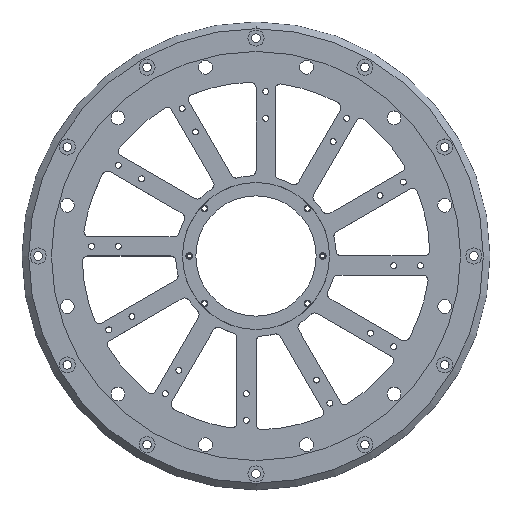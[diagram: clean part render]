
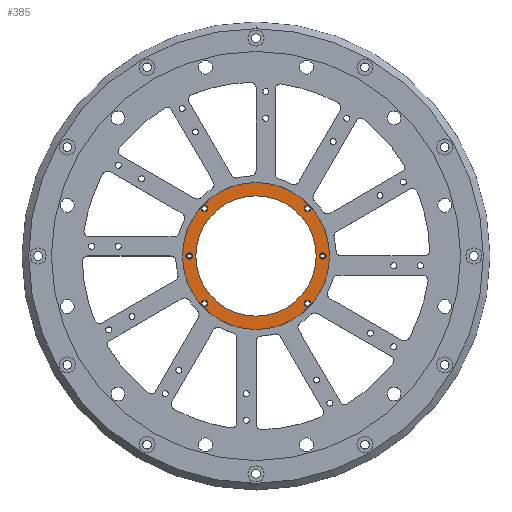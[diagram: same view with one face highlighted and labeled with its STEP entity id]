
A CAD part, top view. The second image highlights one B-rep face of the part: STEP entity #385.
In plain terms, the highlighted planar face has unit normal (0, 0, 1).
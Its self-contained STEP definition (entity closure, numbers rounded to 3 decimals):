
#281=FACE_BOUND('',#1394,.F.);
#282=FACE_BOUND('',#1395,.F.);
#283=FACE_BOUND('',#1396,.F.);
#284=FACE_BOUND('',#1397,.F.);
#285=FACE_BOUND('',#1398,.F.);
#286=FACE_BOUND('',#1399,.F.);
#287=FACE_BOUND('',#1400,.F.);
#321=PLANE('',#8231);
#385=ADVANCED_FACE('',(#281,#282,#283,#284,#285,#286,#287,#825),#321,.T.);
#825=FACE_OUTER_BOUND('',#1401,.F.);
#1394=EDGE_LOOP('',(#2294,#2295));
#1395=EDGE_LOOP('',(#2296,#2297));
#1396=EDGE_LOOP('',(#2298,#2299));
#1397=EDGE_LOOP('',(#2300,#2301));
#1398=EDGE_LOOP('',(#2302,#2303));
#1399=EDGE_LOOP('',(#2304,#2305));
#1400=EDGE_LOOP('',(#2306,#2307));
#1401=EDGE_LOOP('',(#2308,#2309));
#2294=ORIENTED_EDGE('',*,*,#5674,.F.);
#2295=ORIENTED_EDGE('',*,*,#5675,.F.);
#2296=ORIENTED_EDGE('',*,*,#5537,.F.);
#2297=ORIENTED_EDGE('',*,*,#5536,.F.);
#2298=ORIENTED_EDGE('',*,*,#5540,.F.);
#2299=ORIENTED_EDGE('',*,*,#5541,.F.);
#2300=ORIENTED_EDGE('',*,*,#5535,.F.);
#2301=ORIENTED_EDGE('',*,*,#5534,.F.);
#2302=ORIENTED_EDGE('',*,*,#5542,.F.);
#2303=ORIENTED_EDGE('',*,*,#5543,.F.);
#2304=ORIENTED_EDGE('',*,*,#5533,.F.);
#2305=ORIENTED_EDGE('',*,*,#5532,.F.);
#2306=ORIENTED_EDGE('',*,*,#5672,.F.);
#2307=ORIENTED_EDGE('',*,*,#5673,.F.);
#2308=ORIENTED_EDGE('',*,*,#5679,.T.);
#2309=ORIENTED_EDGE('',*,*,#5676,.T.);
#5532=EDGE_CURVE('',#7305,#7304,#6590,.T.);
#5533=EDGE_CURVE('',#7304,#7305,#6591,.T.);
#5534=EDGE_CURVE('',#7303,#7302,#6592,.T.);
#5535=EDGE_CURVE('',#7302,#7303,#6593,.T.);
#5536=EDGE_CURVE('',#7301,#7300,#6594,.T.);
#5537=EDGE_CURVE('',#7300,#7301,#6595,.T.);
#5540=EDGE_CURVE('',#7297,#7296,#6598,.T.);
#5541=EDGE_CURVE('',#7296,#7297,#6599,.T.);
#5542=EDGE_CURVE('',#7295,#7294,#6600,.T.);
#5543=EDGE_CURVE('',#7294,#7295,#6601,.T.);
#5672=EDGE_CURVE('',#7169,#7168,#6702,.T.);
#5673=EDGE_CURVE('',#7168,#7169,#6703,.T.);
#5674=EDGE_CURVE('',#7167,#7166,#6704,.T.);
#5675=EDGE_CURVE('',#7166,#7167,#6705,.T.);
#5676=EDGE_CURVE('',#7165,#7164,#6706,.T.);
#5679=EDGE_CURVE('',#7164,#7165,#6707,.T.);
#6590=CIRCLE('',#7900,1.25);
#6591=CIRCLE('',#7901,1.25);
#6592=CIRCLE('',#7902,1.25);
#6593=CIRCLE('',#7903,1.25);
#6594=CIRCLE('',#7904,22.5);
#6595=CIRCLE('',#7905,22.5);
#6598=CIRCLE('',#7908,1.25);
#6599=CIRCLE('',#7909,1.25);
#6600=CIRCLE('',#7910,1.25);
#6601=CIRCLE('',#7911,1.25);
#6702=CIRCLE('',#8012,1.216);
#6703=CIRCLE('',#8013,1.216);
#6704=CIRCLE('',#8014,1.216);
#6705=CIRCLE('',#8015,1.216);
#6706=CIRCLE('',#8016,27.5);
#6707=CIRCLE('',#8017,27.5);
#7164=VERTEX_POINT('',#11532);
#7165=VERTEX_POINT('',#11533);
#7166=VERTEX_POINT('',#11534);
#7167=VERTEX_POINT('',#11535);
#7168=VERTEX_POINT('',#11536);
#7169=VERTEX_POINT('',#11537);
#7294=VERTEX_POINT('',#11662);
#7295=VERTEX_POINT('',#11663);
#7296=VERTEX_POINT('',#11664);
#7297=VERTEX_POINT('',#11665);
#7300=VERTEX_POINT('',#11668);
#7301=VERTEX_POINT('',#11669);
#7302=VERTEX_POINT('',#11670);
#7303=VERTEX_POINT('',#11671);
#7304=VERTEX_POINT('',#11672);
#7305=VERTEX_POINT('',#11673);
#7900=AXIS2_PLACEMENT_3D('',#12244,#9265,#9266);
#7901=AXIS2_PLACEMENT_3D('',#12245,#9267,#9268);
#7902=AXIS2_PLACEMENT_3D('',#12246,#9269,#9270);
#7903=AXIS2_PLACEMENT_3D('',#12247,#9271,#9272);
#7904=AXIS2_PLACEMENT_3D('',#12248,#9273,#9274);
#7905=AXIS2_PLACEMENT_3D('',#12249,#9275,#9276);
#7908=AXIS2_PLACEMENT_3D('',#12252,#9281,#9282);
#7909=AXIS2_PLACEMENT_3D('',#12253,#9283,#9284);
#7910=AXIS2_PLACEMENT_3D('',#12254,#9285,#9286);
#7911=AXIS2_PLACEMENT_3D('',#12255,#9287,#9288);
#8012=AXIS2_PLACEMENT_3D('',#12384,#9517,#9518);
#8013=AXIS2_PLACEMENT_3D('',#12385,#9519,#9520);
#8014=AXIS2_PLACEMENT_3D('',#12386,#9521,#9522);
#8015=AXIS2_PLACEMENT_3D('',#12387,#9523,#9524);
#8016=AXIS2_PLACEMENT_3D('',#12388,#9525,#9526);
#8017=AXIS2_PLACEMENT_3D('',#12391,#9529,#9530);
#8231=AXIS2_PLACEMENT_3D('',#12967,#10319,#10320);
#9265=DIRECTION('',(0.,0.,-1.));
#9266=DIRECTION('',(0.,-1.,0.));
#9267=DIRECTION('',(0.,0.,-1.));
#9268=DIRECTION('',(0.,1.,0.));
#9269=DIRECTION('',(0.,0.,-1.));
#9270=DIRECTION('',(0.,-1.,0.));
#9271=DIRECTION('',(0.,0.,-1.));
#9272=DIRECTION('',(0.,1.,0.));
#9273=DIRECTION('',(0.,0.,-1.));
#9274=DIRECTION('',(0.,-1.,0.));
#9275=DIRECTION('',(0.,0.,-1.));
#9276=DIRECTION('',(0.,1.,0.));
#9281=DIRECTION('',(0.,0.,-1.));
#9282=DIRECTION('',(0.,1.,0.));
#9283=DIRECTION('',(0.,0.,-1.));
#9284=DIRECTION('',(0.,-1.,0.));
#9285=DIRECTION('',(0.,0.,-1.));
#9286=DIRECTION('',(0.,1.,0.));
#9287=DIRECTION('',(0.,0.,-1.));
#9288=DIRECTION('',(0.,-1.,0.));
#9517=DIRECTION('',(0.,0.,-1.));
#9518=DIRECTION('',(0.,-1.,0.));
#9519=DIRECTION('',(0.,0.,-1.));
#9520=DIRECTION('',(0.,1.,0.));
#9521=DIRECTION('',(0.,0.,-1.));
#9522=DIRECTION('',(0.,-1.,0.));
#9523=DIRECTION('',(0.,0.,-1.));
#9524=DIRECTION('',(0.,1.,0.));
#9525=DIRECTION('',(0.,0.,-1.));
#9526=DIRECTION('',(0.,1.,0.));
#9529=DIRECTION('',(0.,0.,-1.));
#9530=DIRECTION('',(0.,-1.,0.));
#10319=DIRECTION('',(0.,0.,1.));
#10320=DIRECTION('',(-1.,0.,0.));
#11532=CARTESIAN_POINT('',(-203.258,-40.83,-717.435));
#11533=CARTESIAN_POINT('',(-203.258,14.17,-717.435));
#11534=CARTESIAN_POINT('',(-228.257,-12.113,-717.435));
#11535=CARTESIAN_POINT('',(-228.257,-14.546,-717.435));
#11536=CARTESIAN_POINT('',(-178.257,-12.113,-717.435));
#11537=CARTESIAN_POINT('',(-178.257,-14.546,-717.435));
#11662=CARTESIAN_POINT('',(-222.507,3.17,-717.435));
#11663=CARTESIAN_POINT('',(-222.507,5.67,-717.435));
#11664=CARTESIAN_POINT('',(-184.007,-32.33,-717.435));
#11665=CARTESIAN_POINT('',(-184.007,-29.83,-717.435));
#11668=CARTESIAN_POINT('',(-203.258,9.17,-717.435));
#11669=CARTESIAN_POINT('',(-203.258,-35.83,-717.435));
#11670=CARTESIAN_POINT('',(-184.007,5.67,-717.435));
#11671=CARTESIAN_POINT('',(-184.007,3.17,-717.435));
#11672=CARTESIAN_POINT('',(-222.507,-29.83,-717.435));
#11673=CARTESIAN_POINT('',(-222.507,-32.33,-717.435));
#12244=CARTESIAN_POINT('',(-222.507,-31.08,-717.435));
#12245=CARTESIAN_POINT('',(-222.507,-31.08,-717.435));
#12246=CARTESIAN_POINT('',(-184.007,4.42,-717.435));
#12247=CARTESIAN_POINT('',(-184.007,4.42,-717.435));
#12248=CARTESIAN_POINT('',(-203.258,-13.33,-717.435));
#12249=CARTESIAN_POINT('',(-203.258,-13.33,-717.435));
#12252=CARTESIAN_POINT('',(-184.007,-31.08,-717.435));
#12253=CARTESIAN_POINT('',(-184.007,-31.08,-717.435));
#12254=CARTESIAN_POINT('',(-222.507,4.42,-717.435));
#12255=CARTESIAN_POINT('',(-222.507,4.42,-717.435));
#12384=CARTESIAN_POINT('',(-178.257,-13.33,-717.435));
#12385=CARTESIAN_POINT('',(-178.257,-13.33,-717.435));
#12386=CARTESIAN_POINT('',(-228.257,-13.33,-717.435));
#12387=CARTESIAN_POINT('',(-228.257,-13.33,-717.435));
#12388=CARTESIAN_POINT('',(-203.258,-13.33,-717.435));
#12391=CARTESIAN_POINT('',(-203.258,-13.33,-717.435));
#12967=CARTESIAN_POINT('',(-175.208,-41.38,-717.435));
